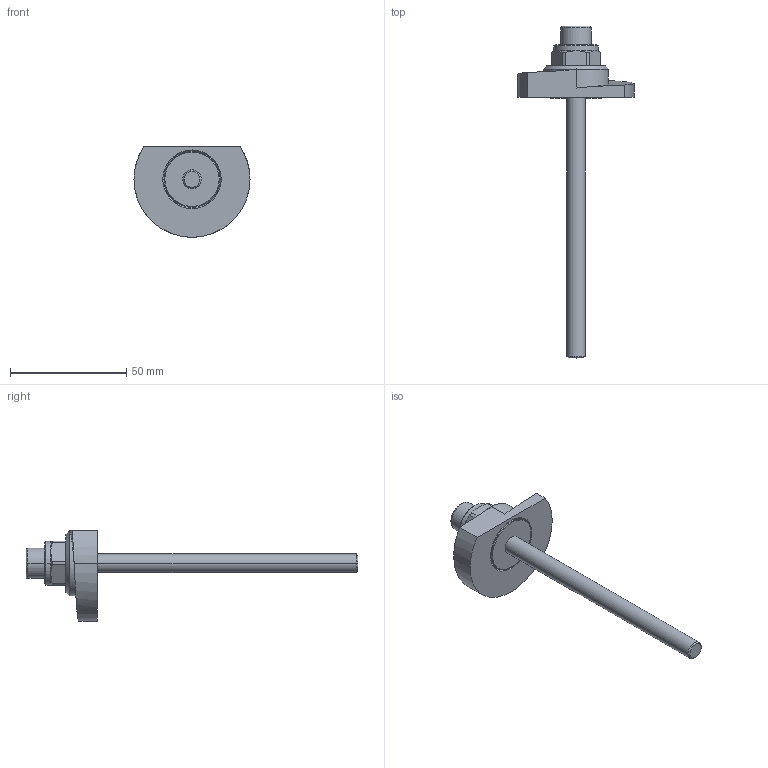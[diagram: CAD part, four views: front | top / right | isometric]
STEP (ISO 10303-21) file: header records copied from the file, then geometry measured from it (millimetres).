
FILE_DESCRIPTION (( 'STEP AP214' ), '1' );
FILE_NAME ('918.1-50-SKS-R-112.step', '2024-05-15T13:03:29', ( '' ), ( '' ), 'SwSTEP 2.0', 'SolidWorks 2022', '' );
FILE_SCHEMA (( 'AUTOMOTIVE_DESIGN' ));
Length unit declared in the file: millimetre
Products named in the file (1): 918.1-50-SKS-R-112
Bounding box: 50 x 143 x 39 mm (x, y, z)
Volume: 25721.5 mm3; surface area: 11143.1 mm2
Topology: 1 solids, 2 shells, 77 faces, 175 edges, 110 vertices
Faces by surface type: cylinder 25, plane 25, cone 22, bspline 3, torus 2
Entity records: 2547 total; most frequent: CARTESIAN_POINT 772, DIRECTION 379, ORIENTED_EDGE 350, EDGE_CURVE 175, AXIS2_PLACEMENT_3D 152, VERTEX_POINT 110, EDGE_LOOP 87, ADVANCED_FACE 77
